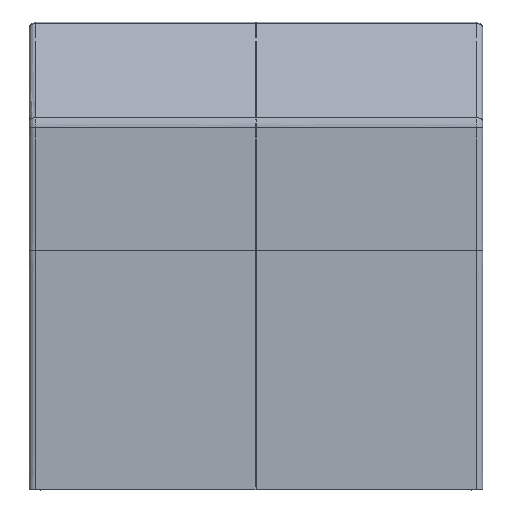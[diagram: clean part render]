
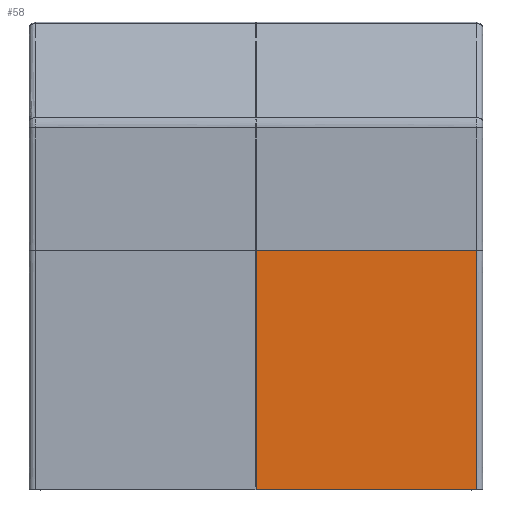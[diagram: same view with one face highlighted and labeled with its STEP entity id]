
A CAD part, front view. The second image highlights one B-rep face of the part: STEP entity #58.
In plain terms, the highlighted free-form (B-spline) face has degree [3, 3] with [4, 4] control points.
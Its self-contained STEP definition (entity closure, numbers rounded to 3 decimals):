
#58=ADVANCED_FACE($,(#260),#2408,.T.);
#260=FACE_OUTER_BOUND($,#462,.T.);
#462=EDGE_LOOP($,(#770,#771,#772,#773));
#770=ORIENTED_EDGE($,*,*,#1651,.T.);
#771=ORIENTED_EDGE($,*,*,#1650,.T.);
#772=ORIENTED_EDGE($,*,*,#1648,.F.);
#773=ORIENTED_EDGE($,*,*,#1652,.F.);
#1648=EDGE_CURVE($,#2102,#2065,#2803,.T.);
#1650=EDGE_CURVE($,#2061,#2065,#2805,.T.);
#1651=EDGE_CURVE($,#2104,#2061,#2567,.T.);
#1652=EDGE_CURVE($,#2104,#2102,#2568,.T.);
#2061=VERTEX_POINT($,#4282);
#2065=VERTEX_POINT($,#4286);
#2102=VERTEX_POINT($,#4323);
#2104=VERTEX_POINT($,#4325);
#2408=(
BOUNDED_SURFACE()
B_SPLINE_SURFACE(3,3,((#3936,#3937,#3938,#3939),(#3940,#3941,#3942,#3943),
(#3944,#3945,#3946,#3947),(#3948,#3949,#3950,#3951)),.UNSPECIFIED.,.F.,.F.,
.F.)
B_SPLINE_SURFACE_WITH_KNOTS((4,4),(4,4),(127.04,209.54),
(42.5,118.5),.UNSPECIFIED.)
GEOMETRIC_REPRESENTATION_ITEM()
RATIONAL_B_SPLINE_SURFACE(((1.,1.,1.,1.),(1.,1.,1.,1.),(1.,1.,1.,1.),(1.,
1.,1.,1.)))
REPRESENTATION_ITEM($)
SURFACE()
);
#2567=B_SPLINE_CURVE_WITH_KNOTS($,3,(#3511,#3512,#3513,#3514),.UNSPECIFIED.,
.F.,.F.,(4,4),(-82.5,0.),.UNSPECIFIED.);
#2568=B_SPLINE_CURVE_WITH_KNOTS($,3,(#3515,#3516,#3517,#3518),.UNSPECIFIED.,
.F.,.F.,(4,4),(-76.,0.),.UNSPECIFIED.);
#2803=(
BOUNDED_CURVE()
B_SPLINE_CURVE(3,(#3499,#3500,#3501,#3502),.UNSPECIFIED.,.F.,.F.)
B_SPLINE_CURVE_WITH_KNOTS((4,4),(127.04,209.54),.UNSPECIFIED.)
CURVE()
GEOMETRIC_REPRESENTATION_ITEM()
RATIONAL_B_SPLINE_CURVE((1.,1.,1.,1.))
REPRESENTATION_ITEM($)
);
#2805=(
BOUNDED_CURVE()
B_SPLINE_CURVE(3,(#3507,#3508,#3509,#3510),.UNSPECIFIED.,.F.,.F.)
B_SPLINE_CURVE_WITH_KNOTS((4,4),(-76.,0.),.UNSPECIFIED.)
CURVE()
GEOMETRIC_REPRESENTATION_ITEM()
RATIONAL_B_SPLINE_CURVE((1.,1.,1.,1.))
REPRESENTATION_ITEM($)
);
#3499=CARTESIAN_POINT($,(76.,-60.399,0.));
#3500=CARTESIAN_POINT($,(76.,-60.399,-27.5));
#3501=CARTESIAN_POINT($,(76.,-60.399,-55.));
#3502=CARTESIAN_POINT($,(76.,-60.399,-82.5));
#3507=CARTESIAN_POINT($,(0.,-60.399,-82.5));
#3508=CARTESIAN_POINT($,(25.333,-60.399,-82.5));
#3509=CARTESIAN_POINT($,(50.667,-60.399,-82.5));
#3510=CARTESIAN_POINT($,(76.,-60.399,-82.5));
#3511=CARTESIAN_POINT($,(0.,-60.399,0.));
#3512=CARTESIAN_POINT($,(0.,-60.399,-27.5));
#3513=CARTESIAN_POINT($,(0.,-60.399,-55.));
#3514=CARTESIAN_POINT($,(0.,-60.399,-82.5));
#3515=CARTESIAN_POINT($,(0.,-60.399,0.));
#3516=CARTESIAN_POINT($,(25.333,-60.399,0.));
#3517=CARTESIAN_POINT($,(50.667,-60.399,0.));
#3518=CARTESIAN_POINT($,(76.,-60.399,0.));
#3936=CARTESIAN_POINT($,(0.,-60.399,0.));
#3937=CARTESIAN_POINT($,(25.333,-60.399,0.));
#3938=CARTESIAN_POINT($,(50.667,-60.399,0.));
#3939=CARTESIAN_POINT($,(76.,-60.399,0.));
#3940=CARTESIAN_POINT($,(0.,-60.399,-27.5));
#3941=CARTESIAN_POINT($,(25.333,-60.399,-27.5));
#3942=CARTESIAN_POINT($,(50.667,-60.399,-27.5));
#3943=CARTESIAN_POINT($,(76.,-60.399,-27.5));
#3944=CARTESIAN_POINT($,(0.,-60.399,-55.));
#3945=CARTESIAN_POINT($,(25.333,-60.399,-55.));
#3946=CARTESIAN_POINT($,(50.667,-60.399,-55.));
#3947=CARTESIAN_POINT($,(76.,-60.399,-55.));
#3948=CARTESIAN_POINT($,(0.,-60.399,-82.5));
#3949=CARTESIAN_POINT($,(25.333,-60.399,-82.5));
#3950=CARTESIAN_POINT($,(50.667,-60.399,-82.5));
#3951=CARTESIAN_POINT($,(76.,-60.399,-82.5));
#4282=CARTESIAN_POINT($,(0.,-60.399,-82.5));
#4286=CARTESIAN_POINT($,(76.,-60.399,-82.5));
#4323=CARTESIAN_POINT($,(76.,-60.399,0.));
#4325=CARTESIAN_POINT($,(0.,-60.399,0.));
